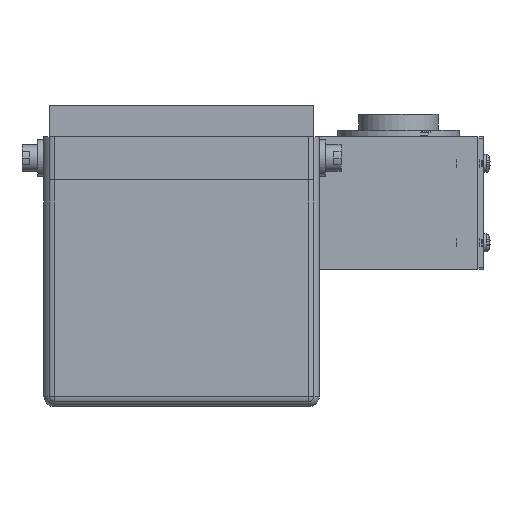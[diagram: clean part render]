
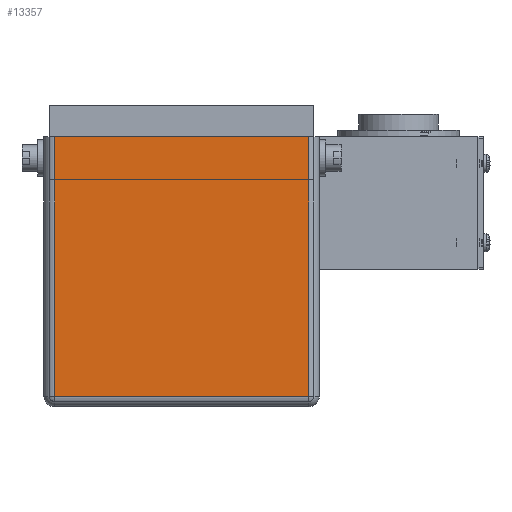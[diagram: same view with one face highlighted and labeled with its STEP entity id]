
A CAD part, front view. The second image highlights one B-rep face of the part: STEP entity #13357.
In plain terms, the highlighted planar face has unit normal (0, -1, 0).
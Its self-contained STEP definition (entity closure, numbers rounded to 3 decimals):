
#861=PLANE('',#14477);
#1423=FACE_OUTER_BOUND('',#2299,.T.);
#2299=EDGE_LOOP('',(#11566,#11567,#11568,#11569));
#2624=LINE('',#18923,#3930);
#2626=LINE('',#18931,#3932);
#2629=LINE('',#18944,#3935);
#2775=LINE('',#19409,#4081);
#3930=VECTOR('',#14996,10.);
#3932=VECTOR('',#15004,10.);
#3935=VECTOR('',#15019,10.);
#4081=VECTOR('',#15363,10.);
#5797=VERTEX_POINT('',#18920);
#5798=VERTEX_POINT('',#18922);
#5801=VERTEX_POINT('',#18930);
#5803=VERTEX_POINT('',#18938);
#7037=EDGE_CURVE('',#5797,#5798,#2624,.T.);
#7041=EDGE_CURVE('',#5798,#5801,#2626,.T.);
#7048=EDGE_CURVE('',#5801,#5803,#2629,.T.);
#7281=EDGE_CURVE('',#5797,#5803,#2775,.T.);
#11566=ORIENTED_EDGE('',*,*,#7037,.F.);
#11567=ORIENTED_EDGE('',*,*,#7281,.T.);
#11568=ORIENTED_EDGE('',*,*,#7048,.F.);
#11569=ORIENTED_EDGE('',*,*,#7041,.F.);
#13357=ADVANCED_FACE('',(#1423),#861,.F.);
#14477=AXIS2_PLACEMENT_3D('',#21584,#17576,#17577);
#14996=DIRECTION('',(0.,0.,-1.));
#15004=DIRECTION('',(-1.,0.,0.));
#15019=DIRECTION('',(0.,0.,1.));
#15363=DIRECTION('',(-1.,0.,0.));
#17576=DIRECTION('center_axis',(0.,1.,0.));
#17577=DIRECTION('ref_axis',(1.,0.,0.));
#18920=CARTESIAN_POINT('',(48.,0.,102.));
#18922=CARTESIAN_POINT('',(48.,0.,4.));
#18923=CARTESIAN_POINT('',(48.,0.,76.5));
#18930=CARTESIAN_POINT('',(-48.,0.,4.));
#18931=CARTESIAN_POINT('',(24.,0.,4.));
#18938=CARTESIAN_POINT('',(-48.,0.,102.));
#18944=CARTESIAN_POINT('',(-48.,0.,27.5));
#19409=CARTESIAN_POINT('',(-50.,0.,102.));
#21584=CARTESIAN_POINT('Origin',(0.,0.,51.));
